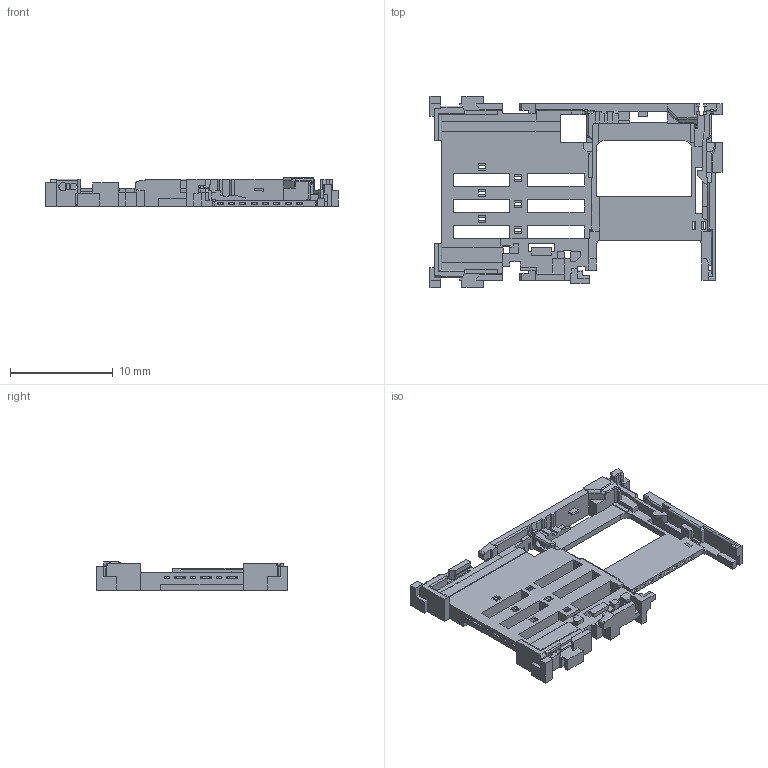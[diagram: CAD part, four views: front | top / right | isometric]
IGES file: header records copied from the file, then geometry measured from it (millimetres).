
Start section:  PTC IGES file: i-dsc20-a14xx0_af0_1_prt.igs
Global section: file name: i-dsc20-a14xx0_af0_1_prt.igs; native system: Pro/ENGINEER by Parametric Technology Corporation; preprocessor: 2006170; author: GRA; organization: Unknown; date: 20080630.105154; units: millimetre
Bounding box: 28.4 x 18.6 x 2.8 mm (x, y, z)
Surface area: 1387.4 mm2 (no closed solid volume)
Topology: 0 solids, 0 shells, 872 faces, 5185 edges, 5184 vertices
Faces by surface type: bspline 773, revolution 99
